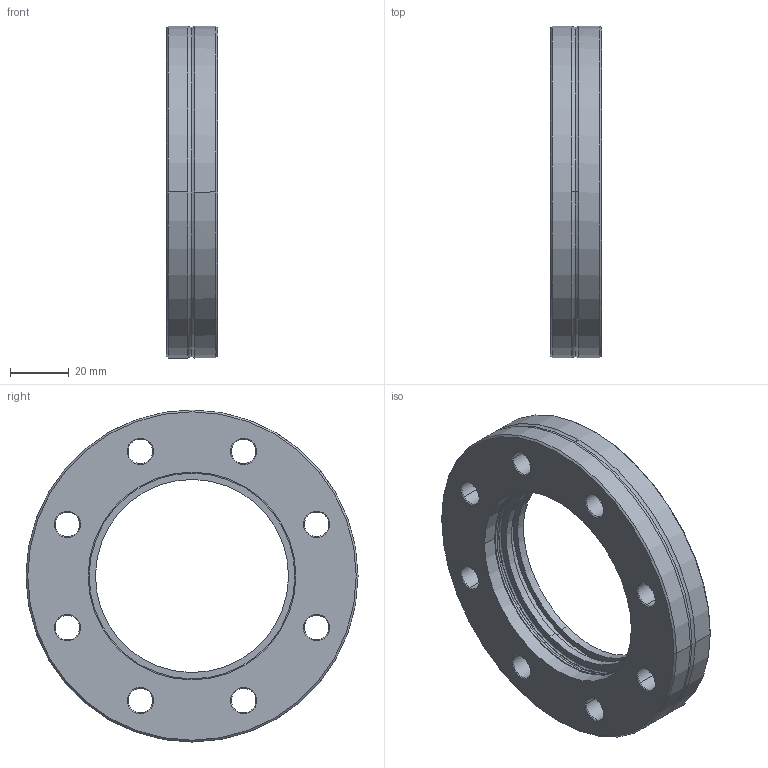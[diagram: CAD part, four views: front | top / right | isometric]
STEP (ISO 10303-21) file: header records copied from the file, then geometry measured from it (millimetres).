
FILE_DESCRIPTION((''),'2;1');
FILE_NAME('N:\Transfer\Berger Martin\Leybold\C15\83559.stp','2005-02-07T08:56:08',('VCRC_L'),(''),'Autodesk Inventor 9','Autodesk Inventor 9','');
FILE_SCHEMA(('AUTOMOTIVE_DESIGN { 1 0 10303 214 1 1 1 1 }'));
Length unit declared in the file: millimetre
Products named in the file (1): 83559
Bounding box: 17.5 x 113.5 x 113.5 mm (x, y, z)
Volume: 100931.9 mm3; surface area: 33211.2 mm2
Topology: 1 solids, 1 shells, 102 faces, 239 edges, 144 vertices
Faces by surface type: cone 46, bspline 22, cylinder 20, plane 8, torus 6
Entity records: 3472 total; most frequent: CARTESIAN_POINT 1058, DIRECTION 543, ORIENTED_EDGE 478, EDGE_CURVE 239, AXIS2_PLACEMENT_3D 231, CIRCLE 150, VERTEX_POINT 144, EDGE_LOOP 125
